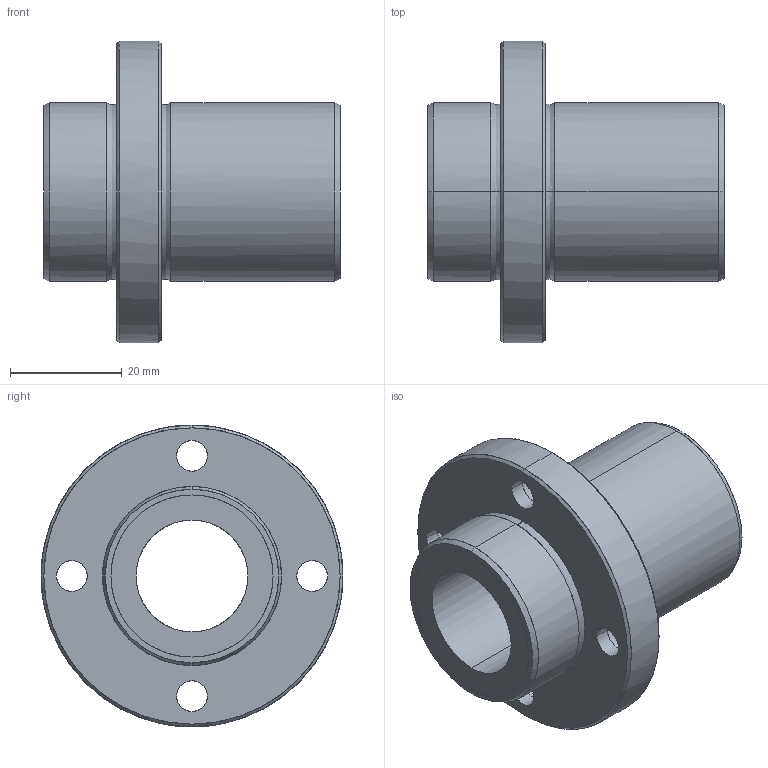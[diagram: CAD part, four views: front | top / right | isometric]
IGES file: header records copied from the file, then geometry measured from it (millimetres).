
Global section: file name: No Iges File Name specified; native system: AutoDesk Inventor R11.0; preprocessor: AutoDesk Inventor Iges Exporter R11.0; author: No Author specified; organization: No Organization specified; date: 20170921.132016; units: millimetre
Bounding box: 53 x 54 x 54 mm (x, y, z)
Surface area: 13651.9 mm2 (no closed solid volume)
Topology: 0 solids, 0 shells, 50 faces, 352 edges, 352 vertices
Faces by surface type: bspline 50
